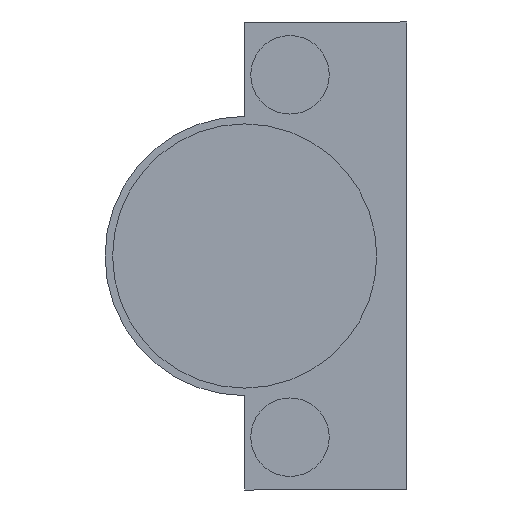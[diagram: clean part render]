
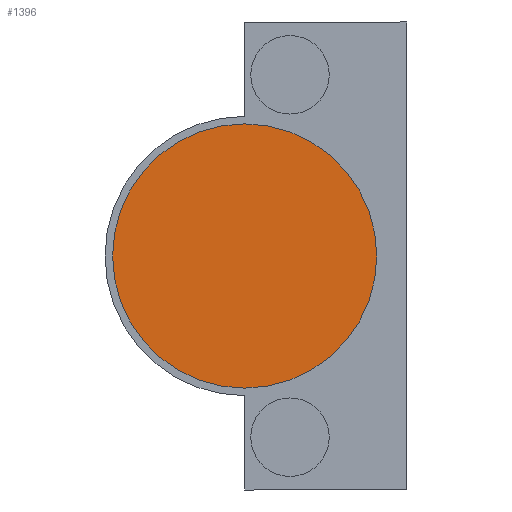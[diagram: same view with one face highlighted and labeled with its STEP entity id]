
A CAD part, front view. The second image highlights one B-rep face of the part: STEP entity #1396.
In plain terms, the highlighted planar face has unit normal (0, -1, 0).
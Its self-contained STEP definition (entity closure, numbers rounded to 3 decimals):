
#11 = VERTEX_POINT ( 'NONE', #746 ) ;
#250 = EDGE_LOOP ( 'NONE', ( #327, #328 ) ) ;
#327 = ORIENTED_EDGE ( 'NONE', *, *, #1590, .T. ) ;
#328 = ORIENTED_EDGE ( 'NONE', *, *, #1557, .T. ) ;
#412 = FACE_OUTER_BOUND ( 'NONE', #250, .T. ) ;
#526 = CIRCLE ( 'NONE', #1469, 17.5 ) ;
#580 = CIRCLE ( 'NONE', #1483, 17.5 ) ;
#670 = VERTEX_POINT ( 'NONE', #756 ) ;
#746 = CARTESIAN_POINT ( 'NONE',  ( 23., -12.6, 0. ) ) ;
#756 = CARTESIAN_POINT ( 'NONE',  ( -12., -12.6, 0. ) ) ;
#998 = CARTESIAN_POINT ( 'NONE',  ( 5.5, -12.6, 0. ) ) ;
#999 = PLANE ( 'NONE',  #1451 ) ;
#1001 = DIRECTION ( 'NONE',  ( 0., -1., 0. ) ) ;
#1002 = DIRECTION ( 'NONE',  ( 1., 0., 0. ) ) ;
#1148 = CARTESIAN_POINT ( 'NONE',  ( 5.5, -12.6, 0. ) ) ;
#1149 = DIRECTION ( 'NONE',  ( 0., -1., 0. ) ) ;
#1150 = DIRECTION ( 'NONE',  ( 1., 0., 0. ) ) ;
#1218 = CARTESIAN_POINT ( 'NONE',  ( 5.5, -12.6, 0. ) ) ;
#1229 = DIRECTION ( 'NONE',  ( 0., -1., 0. ) ) ;
#1230 = DIRECTION ( 'NONE',  ( 1., 0., 0. ) ) ;
#1396 = ADVANCED_FACE ( 'NONE', ( #412 ), #999, .T. ) ;
#1451 = AXIS2_PLACEMENT_3D ( 'NONE', #998, #1001, #1002 ) ;
#1469 = AXIS2_PLACEMENT_3D ( 'NONE', #1148, #1149, #1150 ) ;
#1483 = AXIS2_PLACEMENT_3D ( 'NONE', #1218, #1229, #1230 ) ;
#1557 = EDGE_CURVE ( 'NONE', #11, #670, #526, .T. ) ;
#1590 = EDGE_CURVE ( 'NONE', #670, #11, #580, .T. ) ;
